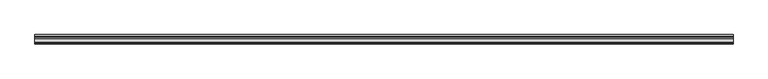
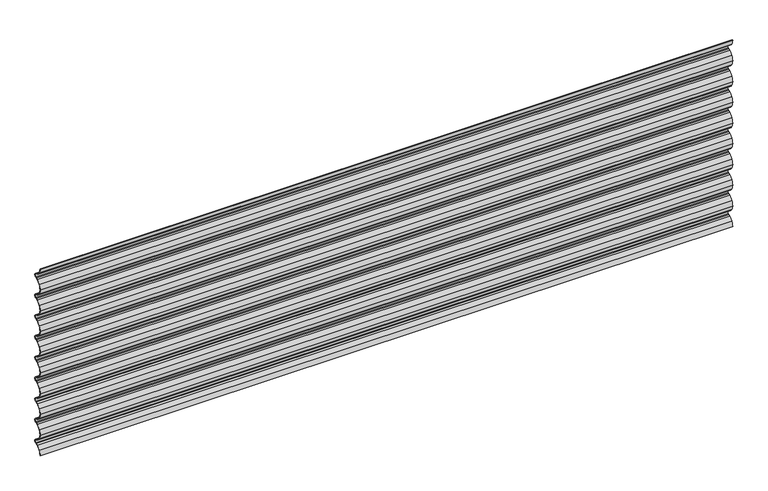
"""IFC4 building model written with IfcOpenShell, lengths in millimetres: plate geometry, Regolare Horizontal 801 : Regolare Horizontal 801."""

from ifc_helpers import new_model, si_unit, point, frame, frame_2d, origin, place, context, project, spatial, polyline, circle_curve, trimmed, segment, composite_curve, outline, extrude, source, transform, mapped, element, save


def plate_4fb3facb(model_context):
    return source(origin(), model_context, "Body", "SweptSolid", [
        extrude(outline(composite_curve([segment(trimmed(circle_curve(frame_2d((38.4503244, 0.0)), 37.4503244), [point((6.5021495, 19.5407501))], [point((1.0, 0.0))], True, "CARTESIAN"), True, "CONTINUOUS"), segment(polyline([(1.0, 0.0), (0.0, 0.0)]), True, "CONTINUOUS"), segment(trimmed(circle_curve(frame_2d((38.4503244, 0.0)), 38.4503244), [point((0.0, 0.0))], [point((5.6490681, 20.062528))], False, "CARTESIAN"), True, "CONTINUOUS"), segment(trimmed(circle_curve(frame_2d((32.6206681, 3.5656452)), 31.6166783), [point((5.6490681, 20.062528))], [point((20.878867, 32.9211295))], False, "CARTESIAN"), True, "CONTINUOUS"), segment(polyline([(20.878867, 32.9211295), (28.0423924, 35.7903512), (31.4771017, 37.4367049)]), True, "CONTINUOUS"), segment(trimmed(circle_curve(frame_2d((28.0791236, 44.5257445)), 7.8613445), [point((31.4771017, 37.4367049))], [point((35.9404682, 44.5257445))], True, "CARTESIAN"), True, "CONTINUOUS"), segment(trimmed(circle_curve(frame_2d((28.0791236, 44.5257445)), 7.8613445), [point((35.9404682, 44.5257445))], [point((31.4771017, 51.6147842))], True, "CARTESIAN"), True, "CONTINUOUS"), segment(polyline([(31.4771017, 51.6147842), (28.0423924, 53.2611379), (20.878867, 56.1303596)]), True, "CONTINUOUS"), segment(trimmed(circle_curve(frame_2d((32.6206681, 85.4858438)), 31.6166783), [point((20.878867, 56.1303596))], [point((5.6490681, 68.9889611))], False, "CARTESIAN"), True, "CONTINUOUS"), segment(trimmed(circle_curve(frame_2d((38.4503244, 89.0514891)), 38.4503244), [point((5.6490681, 68.9889611))], [point((0.0, 89.0514891))], False, "CARTESIAN"), True, "CONTINUOUS"), segment(trimmed(circle_curve(frame_2d((38.4503244, 89.0514891)), 38.4503244), [point((0.0, 89.0514891))], [point((5.6490681, 109.1140171))], False, "CARTESIAN"), True, "CONTINUOUS"), segment(trimmed(circle_curve(frame_2d((32.6206681, 92.6171343)), 31.6166783), [point((5.6490681, 109.1140171))], [point((20.878867, 121.9726185))], False, "CARTESIAN"), True, "CONTINUOUS"), segment(polyline([(20.878867, 121.9726185), (28.0423924, 124.8418403), (31.4771017, 126.488194)]), True, "CONTINUOUS"), segment(trimmed(circle_curve(frame_2d((28.0791236, 133.5772336)), 7.8613445), [point((31.4771017, 126.488194))], [point((31.4771017, 140.6662733))], True, "CARTESIAN"), True, "CONTINUOUS"), segment(polyline([(31.4771017, 140.6662733), (28.0423924, 142.312627), (20.878867, 145.1818487)]), True, "CONTINUOUS"), segment(trimmed(circle_curve(frame_2d((32.6206681, 174.5373329)), 31.6166783), [point((20.878867, 145.1818487))], [point((5.6490681, 158.0404502))], False, "CARTESIAN"), True, "CONTINUOUS"), segment(trimmed(circle_curve(frame_2d((38.4503244, 178.1029782)), 38.4503244), [point((5.6490681, 158.0404502))], [point((0.0, 178.1029782))], False, "CARTESIAN"), True, "CONTINUOUS"), segment(trimmed(circle_curve(frame_2d((38.4503244, 178.1029782)), 38.4503244), [point((0.0, 178.1029782))], [point((5.6490681, 198.1655062))], False, "CARTESIAN"), True, "CONTINUOUS"), segment(trimmed(circle_curve(frame_2d((32.6206681, 181.6686234)), 31.6166783), [point((5.6490681, 198.1655062))], [point((20.878867, 211.0241076))], False, "CARTESIAN"), True, "CONTINUOUS"), segment(polyline([(20.878867, 211.0241076), (28.0423924, 213.8933293), (31.4771017, 215.5396831)]), True, "CONTINUOUS"), segment(trimmed(circle_curve(frame_2d((28.0791236, 222.6287227)), 7.8613445), [point((31.4771017, 215.5396831))], [point((31.4771017, 229.7177623))], True, "CARTESIAN"), True, "CONTINUOUS"), segment(polyline([(31.4771017, 229.7177623), (28.0423924, 231.3641161), (20.878867, 234.2333378)]), True, "CONTINUOUS"), segment(trimmed(circle_curve(frame_2d((32.6206681, 263.588822)), 31.6166783), [point((20.878867, 234.2333378))], [point((5.6490681, 247.0919392))], False, "CARTESIAN"), True, "CONTINUOUS"), segment(trimmed(circle_curve(frame_2d((38.4503244, 267.1544672)), 38.4503244), [point((5.6490681, 247.0919392))], [point((0.0, 267.1544672))], False, "CARTESIAN"), True, "CONTINUOUS"), segment(trimmed(circle_curve(frame_2d((38.4503244, 267.1544672)), 38.4503244), [point((0.0, 267.1544672))], [point((5.6490681, 287.2169952))], False, "CARTESIAN"), True, "CONTINUOUS"), segment(trimmed(circle_curve(frame_2d((32.6206681, 270.7201125)), 31.6166783), [point((5.6490681, 287.2169952))], [point((20.878867, 300.0755967))], False, "CARTESIAN"), True, "CONTINUOUS"), segment(polyline([(20.878867, 300.0755967), (28.0423924, 302.9448184), (31.4771017, 304.5911721)]), True, "CONTINUOUS"), segment(trimmed(circle_curve(frame_2d((28.0791236, 311.6802118)), 7.8613445), [point((31.4771017, 304.5911721))], [point((31.4771017, 318.7692514))], True, "CARTESIAN"), True, "CONTINUOUS"), segment(polyline([(31.4771017, 318.7692514), (28.0423924, 320.4156051), (20.878867, 323.2848269)]), True, "CONTINUOUS"), segment(trimmed(circle_curve(frame_2d((32.6206681, 352.6403111)), 31.6166783), [point((20.878867, 323.2848269))], [point((5.6490681, 336.1434283))], False, "CARTESIAN"), True, "CONTINUOUS"), segment(trimmed(circle_curve(frame_2d((38.4503244, 356.2059563)), 38.4503244), [point((5.6490681, 336.1434283))], [point((0.0, 356.2059563))], False, "CARTESIAN"), True, "CONTINUOUS"), segment(trimmed(circle_curve(frame_2d((38.4503244, 356.2059563)), 38.4503244), [point((0.0, 356.2059563))], [point((5.6490681, 376.2684843))], False, "CARTESIAN"), True, "CONTINUOUS"), segment(trimmed(circle_curve(frame_2d((32.6206681, 359.7716016)), 31.6166783), [point((5.6490681, 376.2684843))], [point((20.878867, 389.1270858))], False, "CARTESIAN"), True, "CONTINUOUS"), segment(polyline([(20.878867, 389.1270858), (28.0423924, 391.9963075), (31.4771017, 393.6426612)]), True, "CONTINUOUS"), segment(trimmed(circle_curve(frame_2d((28.0791236, 400.7317009)), 7.8613445), [point((31.4771017, 393.6426612))], [point((31.4771017, 407.8207405))], True, "CARTESIAN"), True, "CONTINUOUS"), segment(polyline([(31.4771017, 407.8207405), (28.0423924, 409.4670942), (20.878867, 412.3363159)]), True, "CONTINUOUS"), segment(trimmed(circle_curve(frame_2d((32.6206681, 441.6918002)), 31.6166783), [point((20.878867, 412.3363159))], [point((5.6490681, 425.1949174))], False, "CARTESIAN"), True, "CONTINUOUS"), segment(trimmed(circle_curve(frame_2d((38.4503244, 445.2574454)), 38.4503244), [point((5.6490681, 425.1949174))], [point((0.0, 445.2574454))], False, "CARTESIAN"), True, "CONTINUOUS"), segment(trimmed(circle_curve(frame_2d((38.4503244, 445.2574454)), 38.4503244), [point((0.0, 445.2574454))], [point((5.6490681, 465.3199734))], False, "CARTESIAN"), True, "CONTINUOUS"), segment(trimmed(circle_curve(frame_2d((32.6206681, 448.8230907)), 31.6166783), [point((5.6490681, 465.3199734))], [point((20.878867, 478.1785749))], False, "CARTESIAN"), True, "CONTINUOUS"), segment(polyline([(20.878867, 478.1785749), (28.0423924, 481.0477966), (31.4771017, 482.6941503)]), True, "CONTINUOUS"), segment(trimmed(circle_curve(frame_2d((28.0791236, 489.7831899)), 7.8613445), [point((31.4771017, 482.6941503))], [point((31.4771017, 496.8722296))], True, "CARTESIAN"), True, "CONTINUOUS"), segment(polyline([(31.4771017, 496.8722296), (28.0423924, 498.5185833), (20.878867, 501.387805)]), True, "CONTINUOUS"), segment(trimmed(circle_curve(frame_2d((32.6206681, 530.7432892)), 31.6166783), [point((20.878867, 501.387805))], [point((5.6490681, 514.2464065))], False, "CARTESIAN"), True, "CONTINUOUS"), segment(trimmed(circle_curve(frame_2d((38.4503244, 534.3089345)), 38.4503244), [point((5.6490681, 514.2464065))], [point((0.0, 534.3089345))], False, "CARTESIAN"), True, "CONTINUOUS"), segment(trimmed(circle_curve(frame_2d((38.4503244, 534.3089345)), 38.4503244), [point((0.0, 534.3089345))], [point((5.6490681, 554.3714625))], False, "CARTESIAN"), True, "CONTINUOUS"), segment(trimmed(circle_curve(frame_2d((32.6206681, 537.8745797)), 31.6166783), [point((5.6490681, 554.3714625))], [point((20.878867, 567.2300639))], False, "CARTESIAN"), True, "CONTINUOUS"), segment(polyline([(20.878867, 567.2300639), (28.0423924, 570.0992857), (31.4771017, 571.7456394)]), True, "CONTINUOUS"), segment(trimmed(circle_curve(frame_2d((28.0791236, 578.834679)), 7.8613445), [point((31.4771017, 571.7456394))], [point((31.4771017, 585.9237187))], True, "CARTESIAN"), True, "CONTINUOUS"), segment(polyline([(31.4771017, 585.9237187), (28.0423924, 587.5700724), (20.878867, 590.4392941)]), True, "CONTINUOUS"), segment(trimmed(circle_curve(frame_2d((32.6206681, 619.7947783)), 31.6166783), [point((20.878867, 590.4392941))], [point((5.6490681, 603.2978956))], False, "CARTESIAN"), True, "CONTINUOUS"), segment(trimmed(circle_curve(frame_2d((38.4503244, 623.3604236)), 38.4503244), [point((5.6490681, 603.2978956))], [point((0.0, 623.3604236))], False, "CARTESIAN"), True, "CONTINUOUS"), segment(trimmed(circle_curve(frame_2d((38.4503244, 623.3604236)), 38.4503244), [point((0.0, 623.3604236))], [point((5.6490681, 643.4229516))], False, "CARTESIAN"), True, "CONTINUOUS"), segment(trimmed(circle_curve(frame_2d((32.6206681, 626.9260688)), 31.6166783), [point((5.6490681, 643.4229516))], [point((20.878867, 656.281553))], False, "CARTESIAN"), True, "CONTINUOUS"), segment(polyline([(20.878867, 656.281553), (28.0423924, 659.1507748), (31.4771017, 660.7971285)]), True, "CONTINUOUS"), segment(trimmed(circle_curve(frame_2d((28.0791236, 667.8861681)), 7.8613445), [point((31.4771017, 660.7971285))], [point((31.4771017, 674.9752077))], True, "CARTESIAN"), True, "CONTINUOUS"), segment(polyline([(31.4771017, 674.9752077), (28.0423924, 676.6215615), (20.878867, 679.4907832)]), True, "CONTINUOUS"), segment(trimmed(circle_curve(frame_2d((32.6206681, 708.8462674)), 31.6166783), [point((20.878867, 679.4907832))], [point((5.6490681, 692.3493846))], False, "CARTESIAN"), True, "CONTINUOUS"), segment(trimmed(circle_curve(frame_2d((38.4503244, 712.4119126)), 38.4503244), [point((5.6490681, 692.3493846))], [point((0.0, 712.4119126))], False, "CARTESIAN"), True, "CONTINUOUS"), segment(trimmed(circle_curve(frame_2d((38.4503244, 712.4119126)), 38.4503244), [point((0.0, 712.4119126))], [point((5.6490681, 732.4744406))], False, "CARTESIAN"), True, "CONTINUOUS"), segment(trimmed(circle_curve(frame_2d((32.6206681, 715.9775579)), 31.6166783), [point((5.6490681, 732.4744406))], [point((20.878867, 745.3330421))], False, "CARTESIAN"), True, "CONTINUOUS"), segment(polyline([(20.878867, 745.3330421), (28.0423924, 748.2022638), (31.4771017, 749.8486175)]), True, "CONTINUOUS"), segment(trimmed(circle_curve(frame_2d((28.0791236, 756.9376572)), 7.8613445), [point((31.4771017, 749.8486175))], [point((31.4771017, 764.0266968))], True, "CARTESIAN"), True, "CONTINUOUS"), segment(polyline([(31.4771017, 764.0266968), (28.0423924, 765.6730505), (20.878867, 768.5422723)]), True, "CONTINUOUS"), segment(trimmed(circle_curve(frame_2d((32.6206681, 797.8977565)), 31.6166783), [point((20.878867, 768.5422723))], [point((5.6490681, 781.4008737))], False, "CARTESIAN"), True, "CONTINUOUS"), segment(trimmed(circle_curve(frame_2d((38.4503244, 801.4634017)), 38.4503244), [point((5.6490681, 781.4008737))], [point((0.0, 801.4634017))], False, "CARTESIAN"), True, "CONTINUOUS"), segment(polyline([(0.0, 801.4634017), (1.0, 801.4634017)]), True, "CONTINUOUS"), segment(trimmed(circle_curve(frame_2d((38.4503244, 801.4634017)), 37.4503244), [point((1.0, 801.4634017))], [point((6.5021495, 781.9226516))], True, "CARTESIAN"), True, "CONTINUOUS"), segment(trimmed(circle_curve(frame_2d((32.6206681, 797.8977565)), 30.6166783), [point((6.5021495, 781.9226516))], [point((21.2504634, 769.4706666))], True, "CARTESIAN"), True, "CONTINUOUS"), segment(polyline([(21.2504634, 769.4706666), (28.4448583, 766.5890807), (31.9093405, 764.928456)]), True, "CONTINUOUS"), segment(trimmed(circle_curve(frame_2d((28.0791236, 756.9376572)), 8.8613445), [point((31.9093405, 764.928456))], [point((31.9093405, 748.9468584))], False, "CARTESIAN"), True, "CONTINUOUS"), segment(polyline([(31.9093405, 748.9468584), (28.4448583, 747.2862336), (21.2504634, 744.4046477)]), True, "CONTINUOUS"), segment(trimmed(circle_curve(frame_2d((32.6206681, 715.9775579)), 30.6166783), [point((21.2504634, 744.4046477))], [point((6.5021495, 731.9526628))], True, "CARTESIAN"), True, "CONTINUOUS"), segment(trimmed(circle_curve(frame_2d((38.4503244, 712.4119126)), 37.4503244), [point((6.5021495, 731.9526628))], [point((1.0, 712.4119126))], True, "CARTESIAN"), True, "CONTINUOUS"), segment(trimmed(circle_curve(frame_2d((38.4503244, 712.4119126)), 37.4503244), [point((1.0, 712.4119126))], [point((6.5021495, 692.8711625))], True, "CARTESIAN"), True, "CONTINUOUS"), segment(trimmed(circle_curve(frame_2d((32.6206681, 708.8462674)), 30.6166783), [point((6.5021495, 692.8711625))], [point((21.2504634, 680.4191776))], True, "CARTESIAN"), True, "CONTINUOUS"), segment(polyline([(21.2504634, 680.4191776), (28.4448583, 677.5375917), (31.9093405, 675.8769669)]), True, "CONTINUOUS"), segment(trimmed(circle_curve(frame_2d((28.0791236, 667.8861681)), 8.8613445), [point((31.9093405, 675.8769669))], [point((31.9093405, 659.8953693))], False, "CARTESIAN"), True, "CONTINUOUS"), segment(polyline([(31.9093405, 659.8953693), (28.4448583, 658.2347446), (21.2504634, 655.3531587)]), True, "CONTINUOUS"), segment(trimmed(circle_curve(frame_2d((32.6206681, 626.9260688)), 30.6166783), [point((21.2504634, 655.3531587))], [point((6.5021495, 642.9011737))], True, "CARTESIAN"), True, "CONTINUOUS"), segment(trimmed(circle_curve(frame_2d((38.4503244, 623.3604236)), 37.4503244), [point((6.5021495, 642.9011737))], [point((1.0, 623.3604236))], True, "CARTESIAN"), True, "CONTINUOUS"), segment(trimmed(circle_curve(frame_2d((38.4503244, 623.3604236)), 37.4503244), [point((1.0, 623.3604236))], [point((6.5021495, 603.8196734))], True, "CARTESIAN"), True, "CONTINUOUS"), segment(trimmed(circle_curve(frame_2d((32.6206681, 619.7947783)), 30.6166783), [point((6.5021495, 603.8196734))], [point((21.2504634, 591.3676885))], True, "CARTESIAN"), True, "CONTINUOUS"), segment(polyline([(21.2504634, 591.3676885), (28.4448583, 588.4861026), (31.9093405, 586.8254778)]), True, "CONTINUOUS"), segment(trimmed(circle_curve(frame_2d((28.0791236, 578.834679)), 8.8613445), [point((31.9093405, 586.8254778))], [point((31.9093405, 570.8438802))], False, "CARTESIAN"), True, "CONTINUOUS"), segment(polyline([(31.9093405, 570.8438802), (28.4448583, 569.1832555), (21.2504634, 566.3016696)]), True, "CONTINUOUS"), segment(trimmed(circle_curve(frame_2d((32.6206681, 537.8745797)), 30.6166783), [point((21.2504634, 566.3016696))], [point((6.5021495, 553.8496846))], True, "CARTESIAN"), True, "CONTINUOUS"), segment(trimmed(circle_curve(frame_2d((38.4503244, 534.3089345)), 37.4503244), [point((6.5021495, 553.8496846))], [point((1.0, 534.3089345))], True, "CARTESIAN"), True, "CONTINUOUS"), segment(trimmed(circle_curve(frame_2d((38.4503244, 534.3089345)), 37.4503244), [point((1.0, 534.3089345))], [point((6.5021495, 514.7681843))], True, "CARTESIAN"), True, "CONTINUOUS"), segment(trimmed(circle_curve(frame_2d((32.6206681, 530.7432892)), 30.6166783), [point((6.5021495, 514.7681843))], [point((21.2504634, 502.3161994))], True, "CARTESIAN"), True, "CONTINUOUS"), segment(polyline([(21.2504634, 502.3161994), (28.4448583, 499.4346135), (31.9093405, 497.7739888)]), True, "CONTINUOUS"), segment(trimmed(circle_curve(frame_2d((28.0791236, 489.7831899)), 8.8613445), [point((31.9093405, 497.7739888))], [point((31.9093405, 481.7923911))], False, "CARTESIAN"), True, "CONTINUOUS"), segment(polyline([(31.9093405, 481.7923911), (28.4448583, 480.1317664), (21.2504634, 477.2501805)]), True, "CONTINUOUS"), segment(trimmed(circle_curve(frame_2d((32.6206681, 448.8230907)), 30.6166783), [point((21.2504634, 477.2501805))], [point((6.5021495, 464.7981955))], True, "CARTESIAN"), True, "CONTINUOUS"), segment(trimmed(circle_curve(frame_2d((38.4503244, 445.2574454)), 37.4503244), [point((6.5021495, 464.7981955))], [point((1.0, 445.2574454))], True, "CARTESIAN"), True, "CONTINUOUS"), segment(trimmed(circle_curve(frame_2d((38.4503244, 445.2574454)), 37.4503244), [point((1.0, 445.2574454))], [point((6.5021495, 425.7166953))], True, "CARTESIAN"), True, "CONTINUOUS"), segment(trimmed(circle_curve(frame_2d((32.6206681, 441.6918002)), 30.6166783), [point((6.5021495, 425.7166953))], [point((21.2504634, 413.2647103))], True, "CARTESIAN"), True, "CONTINUOUS"), segment(polyline([(21.2504634, 413.2647103), (28.4448583, 410.3831244), (31.9093405, 408.7224997)]), True, "CONTINUOUS"), segment(trimmed(circle_curve(frame_2d((28.0791236, 400.7317009)), 8.8613445), [point((31.9093405, 408.7224997))], [point((31.9093405, 392.740902))], False, "CARTESIAN"), True, "CONTINUOUS"), segment(polyline([(31.9093405, 392.740902), (28.4448583, 391.0802773), (21.2504634, 388.1986914)]), True, "CONTINUOUS"), segment(trimmed(circle_curve(frame_2d((32.6206681, 359.7716016)), 30.6166783), [point((21.2504634, 388.1986914))], [point((6.5021495, 375.7467065))], True, "CARTESIAN"), True, "CONTINUOUS"), segment(trimmed(circle_curve(frame_2d((38.4503244, 356.2059563)), 37.4503244), [point((6.5021495, 375.7467065))], [point((1.0, 356.2059563))], True, "CARTESIAN"), True, "CONTINUOUS"), segment(trimmed(circle_curve(frame_2d((38.4503244, 356.2059563)), 37.4503244), [point((1.0, 356.2059563))], [point((6.5021495, 336.6652062))], True, "CARTESIAN"), True, "CONTINUOUS"), segment(trimmed(circle_curve(frame_2d((32.6206681, 352.6403111)), 30.6166783), [point((6.5021495, 336.6652062))], [point((21.2504634, 324.2132212))], True, "CARTESIAN"), True, "CONTINUOUS"), segment(polyline([(21.2504634, 324.2132212), (28.4448583, 321.3316353), (31.9093405, 319.6710106)]), True, "CONTINUOUS"), segment(trimmed(circle_curve(frame_2d((28.0791236, 311.6802118)), 8.8613445), [point((31.9093405, 319.6710106))], [point((31.9093405, 303.689413))], False, "CARTESIAN"), True, "CONTINUOUS"), segment(polyline([(31.9093405, 303.689413), (28.4448583, 302.0287882), (21.2504634, 299.1472023)]), True, "CONTINUOUS"), segment(trimmed(circle_curve(frame_2d((32.6206681, 270.7201125)), 30.6166783), [point((21.2504634, 299.1472023))], [point((6.5021495, 286.6952174))], True, "CARTESIAN"), True, "CONTINUOUS"), segment(trimmed(circle_curve(frame_2d((38.4503244, 267.1544672)), 37.4503244), [point((6.5021495, 286.6952174))], [point((1.0, 267.1544672))], True, "CARTESIAN"), True, "CONTINUOUS"), segment(trimmed(circle_curve(frame_2d((38.4503244, 267.1544672)), 37.4503244), [point((1.0, 267.1544672))], [point((6.5021495, 247.6137171))], True, "CARTESIAN"), True, "CONTINUOUS"), segment(trimmed(circle_curve(frame_2d((32.6206681, 263.588822)), 30.6166783), [point((6.5021495, 247.6137171))], [point((21.2504634, 235.1617322))], True, "CARTESIAN"), True, "CONTINUOUS"), segment(polyline([(21.2504634, 235.1617322), (28.4448583, 232.2801463), (31.9093405, 230.6195215)]), True, "CONTINUOUS"), segment(trimmed(circle_curve(frame_2d((28.0791236, 222.6287227)), 8.8613445), [point((31.9093405, 230.6195215))], [point((31.9093405, 214.6379239))], False, "CARTESIAN"), True, "CONTINUOUS"), segment(polyline([(31.9093405, 214.6379239), (28.4448583, 212.9772992), (21.2504634, 210.0957133)]), True, "CONTINUOUS"), segment(trimmed(circle_curve(frame_2d((32.6206681, 181.6686234)), 30.6166783), [point((21.2504634, 210.0957133))], [point((6.5021495, 197.6437283))], True, "CARTESIAN"), True, "CONTINUOUS"), segment(trimmed(circle_curve(frame_2d((38.4503244, 178.1029782)), 37.4503244), [point((6.5021495, 197.6437283))], [point((1.0, 178.1029782))], True, "CARTESIAN"), True, "CONTINUOUS"), segment(trimmed(circle_curve(frame_2d((38.4503244, 178.1029782)), 37.4503244), [point((1.0, 178.1029782))], [point((6.5021495, 158.562228))], True, "CARTESIAN"), True, "CONTINUOUS"), segment(trimmed(circle_curve(frame_2d((32.6206681, 174.5373329)), 30.6166783), [point((6.5021495, 158.562228))], [point((21.2504634, 146.1102431))], True, "CARTESIAN"), True, "CONTINUOUS"), segment(polyline([(21.2504634, 146.1102431), (28.4448583, 143.2286572), (31.9093405, 141.5680324)]), True, "CONTINUOUS"), segment(trimmed(circle_curve(frame_2d((28.0791236, 133.5772336)), 8.8613445), [point((31.9093405, 141.5680324))], [point((31.9093405, 125.5864348))], False, "CARTESIAN"), True, "CONTINUOUS"), segment(polyline([(31.9093405, 125.5864348), (28.4448583, 123.9258101), (21.2504634, 121.0442242)]), True, "CONTINUOUS"), segment(trimmed(circle_curve(frame_2d((32.6206681, 92.6171343)), 30.6166783), [point((21.2504634, 121.0442242))], [point((6.5021495, 108.5922392))], True, "CARTESIAN"), True, "CONTINUOUS"), segment(trimmed(circle_curve(frame_2d((38.4503244, 89.0514891)), 37.4503244), [point((6.5021495, 108.5922392))], [point((1.0, 89.0514891))], True, "CARTESIAN"), True, "CONTINUOUS"), segment(trimmed(circle_curve(frame_2d((38.4503244, 89.0514891)), 37.4503244), [point((1.0, 89.0514891))], [point((6.5021495, 69.5107389))], True, "CARTESIAN"), True, "CONTINUOUS"), segment(trimmed(circle_curve(frame_2d((32.6206681, 85.4858438)), 30.6166783), [point((6.5021495, 69.5107389))], [point((21.2504634, 57.058754))], True, "CARTESIAN"), True, "CONTINUOUS"), segment(polyline([(21.2504634, 57.058754), (28.4448583, 54.1771681), (31.9093405, 52.5165434)]), True, "CONTINUOUS"), segment(trimmed(circle_curve(frame_2d((28.0791236, 44.5257445)), 8.8613445), [point((31.9093405, 52.5165434))], [point((36.9404682, 44.5257445))], False, "CARTESIAN"), True, "CONTINUOUS"), segment(trimmed(circle_curve(frame_2d((28.0791236, 44.5257445)), 8.8613445), [point((36.9404682, 44.5257445))], [point((31.9093405, 36.5349457))], False, "CARTESIAN"), True, "CONTINUOUS"), segment(polyline([(31.9093405, 36.5349457), (28.4448583, 34.874321), (21.2504634, 31.9927351)]), True, "CONTINUOUS"), segment(trimmed(circle_curve(frame_2d((32.6206681, 3.5656452)), 30.6166783), [point((21.2504634, 31.9927351))], [point((6.5021495, 19.5407501))], True, "CARTESIAN"), True, "CONTINUOUS")], self_intersect=False)), frame((-1407.0, 0.0, 0.0), z_axis=(1.0, 0.0, 0.0), x_axis=(0.0, 1.0, 0.0)), (0.0, 0.0, 1.0), 2814.0),
    ])


if __name__ == "__main__":
    model = new_model("IFC4")
    model_context = context("Model", 3, world=origin())
    ifc_project = project(units=[si_unit("LENGTHUNIT", "METRE", prefix="MILLI")], contexts=[model_context])
    site = spatial("IfcSite", under=ifc_project)
    building = spatial("IfcBuilding", under=site)
    placement = place(None, origin())
    plate_shape = plate_4fb3facb(model_context)
    element("IfcPlate", 1, ObjectType="Regolare Horizontal 801 : Regolare Horizontal 801", at=placement, inside=building, context=model_context, shape_type="MappedRepresentation", body=[
        mapped(plate_shape, transform((0.0, 0.0, 0.0), x_axis=(1.0, 0.0, 0.0), y_axis=(0.0, 1.0, 0.0), z_axis=(0.0, 0.0, 1.0))),
    ])
    save(model, "model.ifc")
